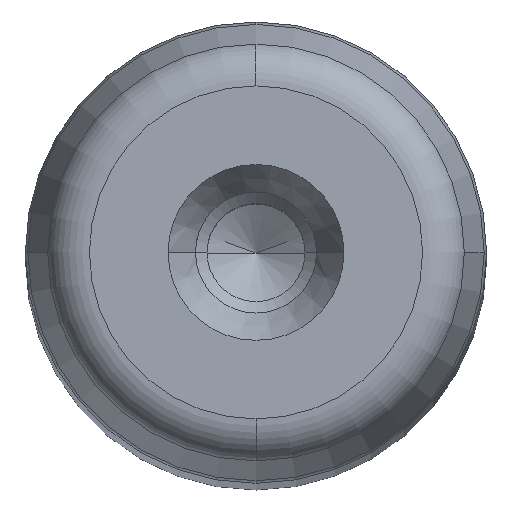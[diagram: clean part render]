
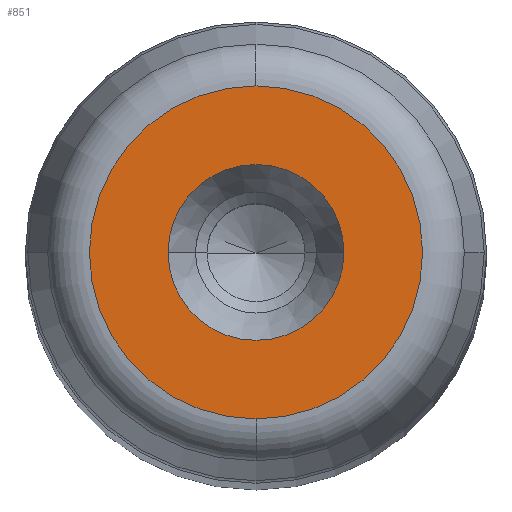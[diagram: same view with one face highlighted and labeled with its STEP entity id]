
A CAD part, top view. The second image highlights one B-rep face of the part: STEP entity #851.
In plain terms, the highlighted planar face has unit normal (0, 0, 1) as drawn and (0, 1, 0) by its records, which use the part's own axes.
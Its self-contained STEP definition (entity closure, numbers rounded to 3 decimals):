
#281=CARTESIAN_POINT('',(6.1,280.0,0.0));
#282=VERTEX_POINT('',#281);
#289=CARTESIAN_POINT('',(-6.1,280.0,0.));
#290=VERTEX_POINT('',#289);
#291=CARTESIAN_POINT('',(0.0,280.0,0.0));
#292=DIRECTION('',(0.0,1.0,0.0));
#293=DIRECTION('',(1.0,0.0,0.0));
#294=AXIS2_PLACEMENT_3D('',#291,#292,#293);
#295=CIRCLE('',#294,6.1);
#296=EDGE_CURVE('',#282,#290,#295,.T.);
#313=CARTESIAN_POINT('',(0.0,280.,11.554));
#314=VERTEX_POINT('',#313);
#324=CARTESIAN_POINT('',(0.,280.,-11.554));
#325=VERTEX_POINT('',#324);
#326=CARTESIAN_POINT('',(0.0,280.,0.0));
#327=DIRECTION('',(0.0,1.0,0.0));
#328=DIRECTION('',(1.0,0.0,0.0));
#329=AXIS2_PLACEMENT_3D('',#326,#327,#328);
#330=CIRCLE('',#329,11.554);
#331=EDGE_CURVE('',#325,#314,#330,.T.);
#812=CARTESIAN_POINT('',(11.554,280.,0.0));
#813=VERTEX_POINT('',#812);
#814=CARTESIAN_POINT('',(0.0,280.,0.0));
#815=DIRECTION('',(0.0,1.0,0.0));
#816=DIRECTION('',(1.0,0.0,0.0));
#817=AXIS2_PLACEMENT_3D('',#814,#815,#816);
#818=CIRCLE('',#817,11.554);
#819=EDGE_CURVE('',#813,#325,#818,.T.);
#821=CARTESIAN_POINT('',(0.0,280.,0.0));
#822=DIRECTION('',(0.0,1.0,0.0));
#823=DIRECTION('',(1.0,0.0,0.0));
#824=AXIS2_PLACEMENT_3D('',#821,#822,#823);
#825=CIRCLE('',#824,11.554);
#826=EDGE_CURVE('',#314,#813,#825,.T.);
#831=CARTESIAN_POINT('',(-12.71,280.0,-12.71));
#832=DIRECTION('',(0.0,1.0,0.0));
#833=DIRECTION('',(0.0,0.0,1.0));
#834=AXIS2_PLACEMENT_3D('',#831,#832,#833);
#835=PLANE('',#834);
#836=ORIENTED_EDGE('',*,*,#819,.T.);
#837=ORIENTED_EDGE('',*,*,#331,.T.);
#838=ORIENTED_EDGE('',*,*,#826,.T.);
#839=EDGE_LOOP('',(#836,#837,#838));
#840=FACE_OUTER_BOUND('',#839,.T.);
#841=ORIENTED_EDGE('',*,*,#296,.F.);
#842=CARTESIAN_POINT('',(0.0,280.0,0.0));
#843=DIRECTION('',(0.0,1.0,0.0));
#844=DIRECTION('',(1.0,0.0,0.0));
#845=AXIS2_PLACEMENT_3D('',#842,#843,#844);
#846=CIRCLE('',#845,6.1);
#847=EDGE_CURVE('',#290,#282,#846,.T.);
#848=ORIENTED_EDGE('',*,*,#847,.F.);
#849=EDGE_LOOP('',(#841,#848));
#850=FACE_BOUND('',#849,.T.);
#851=ADVANCED_FACE('',(#840,#850),#835,.T.);
